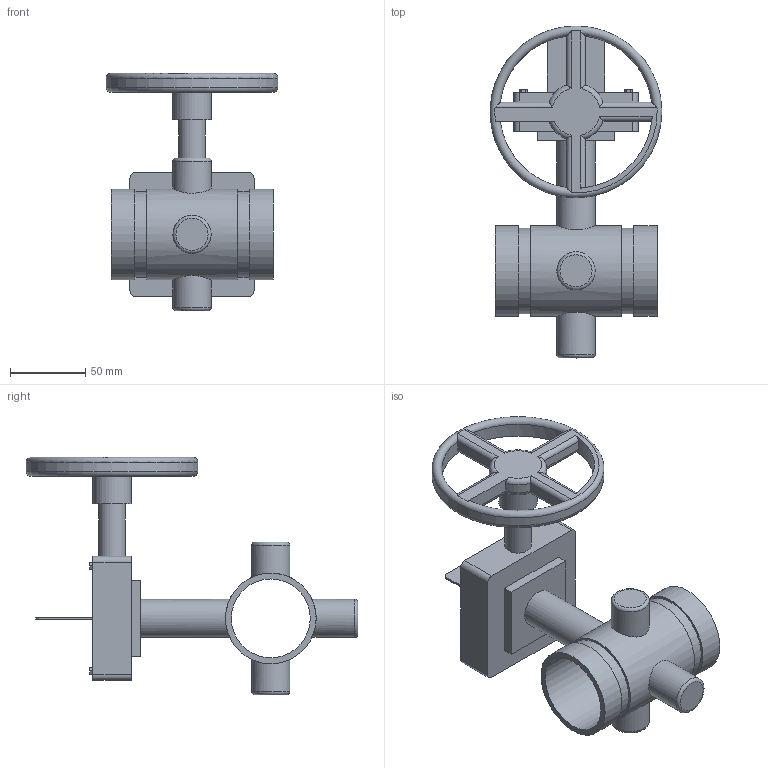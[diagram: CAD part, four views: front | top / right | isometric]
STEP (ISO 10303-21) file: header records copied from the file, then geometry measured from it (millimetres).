
FILE_DESCRIPTION(/* description */ ('VIC FIRELOCK BUTTERFLY VALVE SERIES 707-C W/ WEATHERPROOF ACTUATOR FOR 300 PSI','CAx-IF Rec.Pracs.---Representation and Presentation of Product Manufacturing Information (PMI)---4.0---2014-10-13'),/* implementation_level */ '2;1');
FILE_NAME(/* name */ 'C:\Users\Vjadhav\AppData\Roaming\Autodesk\ApplicationPlugins\Back Up\Victaulic_FP-FireLock_Valve Butterfly_Series 707C (OGS)-Closed\Victaulic_FP-FireLock_Valve Butterfly_Series 707C (OGS)-Closed_2 (50).stp',/* time_stamp */ '2020-07-20T15:14:44+06:00',/* author */ ('kkamble'),/* organization */ ('Victaulic'),/* preprocessor_version */ 'ST-DEVELOPER v17.2',/* originating_system */ 'Autodesk Inventor 2019',/* authorisation */ '');
FILE_SCHEMA (('AP242_MANAGED_MODEL_BASED_3D_ENGINEERING_MIM_LF { 1 0 10303 442 1 1 4 }'));
Length unit declared in the file: inch
Products named in the file (1): 707C-02.0
Bounding box: 114.3 x 220.73 x 157.99 mm (x, y, z)
Volume: 403185.1 mm3; surface area: 98914.1 mm2
Topology: 1 solids, 1 shells, 119 faces, 311 edges, 208 vertices
Faces by surface type: plane 66, cylinder 40, torus 13
Full cylindrical faces by diameter (mm): 17.78 x1, 25.4 x5, 52.502 x1, 57.15 x2, 60.325 x3, 114.3 x1
Entity records: 4466 total; most frequent: CARTESIAN_POINT 1224, DIRECTION 629, ORIENTED_EDGE 622, EDGE_CURVE 311, AXIS2_PLACEMENT_3D 225, VERTEX_POINT 208, LINE 179, VECTOR 179
